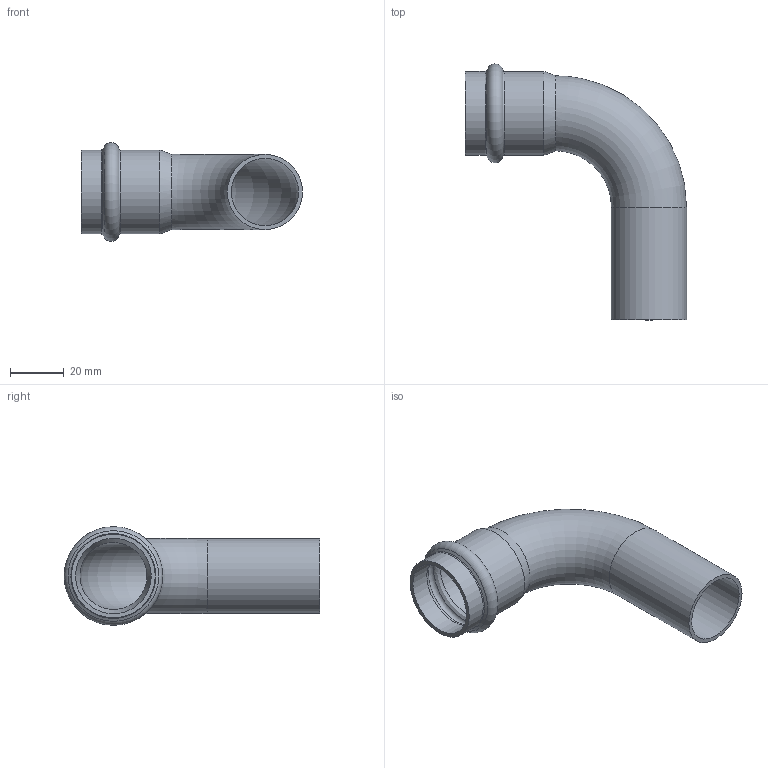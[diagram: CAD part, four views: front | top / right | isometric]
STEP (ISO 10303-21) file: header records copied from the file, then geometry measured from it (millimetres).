
FILE_DESCRIPTION((''),'2;1');
FILE_NAME('G:\Technics\CAD\Bauteile\028\69001A28(1).stp','2008-02-25T08:37:51',('herberg'),(''),'Autodesk Inventor 2008','Autodesk Inventor 2008','');
FILE_SCHEMA(('AUTOMOTIVE_DESIGN { 1 0 10303 214 1 1 1 1 }'));
Length unit declared in the file: millimetre
Products named in the file (1): 69001A28(1)
Bounding box: 82.4 x 95.39 x 36.79 mm (x, y, z)
Volume: 17293.7 mm3; surface area: 23322.5 mm2
Topology: 1 solids, 1 shells, 20 faces, 41 edges, 23 vertices
Faces by surface type: cylinder 6, cone 4, torus 4, bspline 4, plane 2
Full cylindrical faces by diameter (mm): 25 x1, 28 x1, 28.2 x2, 31.2 x2
Entity records: 658 total; most frequent: CARTESIAN_POINT 307, DIRECTION 70, ORIENTED_EDGE 40, EDGE_LOOP 40, AXIS2_PLACEMENT_3D 35, VERTEX_POINT 20, EDGE_CURVE 20, FACE_OUTER_BOUND 20
